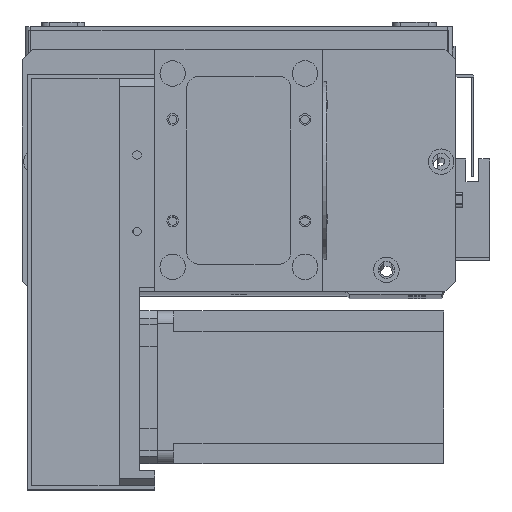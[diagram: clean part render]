
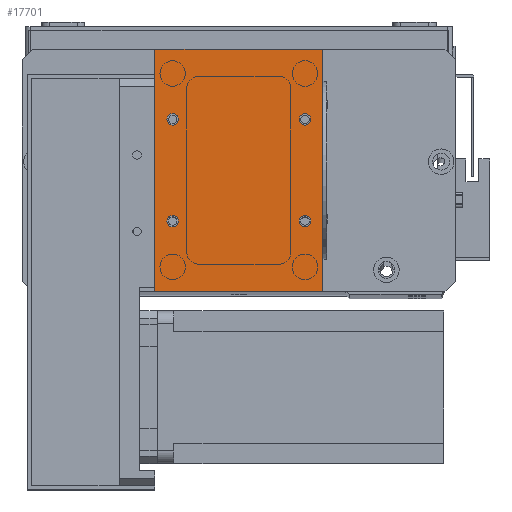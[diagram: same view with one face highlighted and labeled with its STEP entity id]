
A CAD part, top view. The second image highlights one B-rep face of the part: STEP entity #17701.
In plain terms, the highlighted planar face has unit normal (0, 0, 1).
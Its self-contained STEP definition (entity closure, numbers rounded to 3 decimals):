
#842 = DIRECTION ( 'NONE',  ( 0., 0., 1. ) ) ;
#870 = CARTESIAN_POINT ( 'NONE',  ( 7., 27.5, 2. ) ) ;
#997 = EDGE_CURVE ( 'NONE', #13605, #9515, #7344, .T. ) ;
#1415 = VERTEX_POINT ( 'NONE', #14846 ) ;
#1843 = AXIS2_PLACEMENT_3D ( 'NONE', #6313, #23491, #8772 ) ;
#1890 = EDGE_CURVE ( 'NONE', #1415, #28647, #13017, .T. ) ;
#2082 = VERTEX_POINT ( 'NONE', #2871 ) ;
#2129 = DIRECTION ( 'NONE',  ( 1., 0., 0. ) ) ;
#2849 = CARTESIAN_POINT ( 'NONE',  ( 7., 67.5, 2. ) ) ;
#2871 = CARTESIAN_POINT ( 'NONE',  ( 61.25, 67.5, 2. ) ) ;
#3053 = LINE ( 'NONE', #31410, #28395 ) ;
#3177 = DIRECTION ( 'NONE',  ( 0., 0., 1. ) ) ;
#3415 = CIRCLE ( 'NONE', #9214, 2.25 ) ;
#3504 = ORIENTED_EDGE ( 'NONE', *, *, #19364, .T. ) ;
#3548 = CARTESIAN_POINT ( 'NONE',  ( 0., 0., 2. ) ) ;
#4126 = EDGE_LOOP ( 'NONE', ( #5936, #3504, #5085, #23595 ) ) ;
#4518 = CARTESIAN_POINT ( 'NONE',  ( 7., 27.5, 2. ) ) ;
#4837 = AXIS2_PLACEMENT_3D ( 'NONE', #17861, #3177, #20346 ) ;
#5085 = ORIENTED_EDGE ( 'NONE', *, *, #19274, .T. ) ;
#5319 = DIRECTION ( 'NONE',  ( 1., 0., 0. ) ) ;
#5643 = CIRCLE ( 'NONE', #31789, 2.25 ) ;
#5715 = ORIENTED_EDGE ( 'NONE', *, *, #25932, .F. ) ;
#5803 = AXIS2_PLACEMENT_3D ( 'NONE', #3548, #6058, #23211 ) ;
#5936 = ORIENTED_EDGE ( 'NONE', *, *, #1890, .T. ) ;
#6058 = DIRECTION ( 'NONE',  ( 0., 0., -1. ) ) ;
#6313 = CARTESIAN_POINT ( 'NONE',  ( 59., 67.5, 2. ) ) ;
#6922 = AXIS2_PLACEMENT_3D ( 'NONE', #870, #842, #10602 ) ;
#6996 = DIRECTION ( 'NONE',  ( 1., 0., 0. ) ) ;
#7125 = AXIS2_PLACEMENT_3D ( 'NONE', #26456, #11723, #28902 ) ;
#7344 = CIRCLE ( 'NONE', #6922, 2.25 ) ;
#7454 = ORIENTED_EDGE ( 'NONE', *, *, #25657, .F. ) ;
#8406 = VERTEX_POINT ( 'NONE', #19678 ) ;
#8680 = EDGE_LOOP ( 'NONE', ( #7454, #16246 ) ) ;
#8729 = CIRCLE ( 'NONE', #1843, 2.25 ) ;
#8772 = DIRECTION ( 'NONE',  ( 1., 0., 0. ) ) ;
#9214 = AXIS2_PLACEMENT_3D ( 'NONE', #4518, #21700, #6996 ) ;
#9228 = VERTEX_POINT ( 'NONE', #30008 ) ;
#9248 = FACE_BOUND ( 'NONE', #16209, .T. ) ;
#9515 = VERTEX_POINT ( 'NONE', #18803 ) ;
#9638 = CIRCLE ( 'NONE', #4837, 2.25 ) ;
#9947 = CARTESIAN_POINT ( 'NONE',  ( 66., 0., 2. ) ) ;
#10091 = EDGE_CURVE ( 'NONE', #9515, #13605, #3415, .T. ) ;
#10602 = DIRECTION ( 'NONE',  ( 1., 0., 0. ) ) ;
#10831 = FACE_BOUND ( 'NONE', #20926, .T. ) ;
#10884 = CARTESIAN_POINT ( 'NONE',  ( 59., 67.5, 2. ) ) ;
#11254 = VERTEX_POINT ( 'NONE', #24857 ) ;
#11469 = EDGE_CURVE ( 'NONE', #2082, #11254, #22140, .T. ) ;
#11485 = VECTOR ( 'NONE', #17099, 1000. ) ;
#11723 = DIRECTION ( 'NONE',  ( 0., 0., 1. ) ) ;
#12659 = CARTESIAN_POINT ( 'NONE',  ( 59., 27.5, 2. ) ) ;
#12856 = VECTOR ( 'NONE', #31557, 1000. ) ;
#13017 = LINE ( 'NONE', #17312, #11485 ) ;
#13080 = PLANE ( 'NONE',  #5803 ) ;
#13322 = DIRECTION ( 'NONE',  ( 1., 0., 0. ) ) ;
#13605 = VERTEX_POINT ( 'NONE', #15602 ) ;
#14591 = EDGE_CURVE ( 'NONE', #15914, #1415, #25959, .T. ) ;
#14846 = CARTESIAN_POINT ( 'NONE',  ( 0., 95., 2. ) ) ;
#15125 = DIRECTION ( 'NONE',  ( 1., 0., 0. ) ) ;
#15602 = CARTESIAN_POINT ( 'NONE',  ( 4.75, 27.5, 2. ) ) ;
#15914 = VERTEX_POINT ( 'NONE', #27434 ) ;
#15945 = CARTESIAN_POINT ( 'NONE',  ( 66., 0., 2. ) ) ;
#16209 = EDGE_LOOP ( 'NONE', ( #26613, #27820 ) ) ;
#16246 = ORIENTED_EDGE ( 'NONE', *, *, #17122, .F. ) ;
#17099 = DIRECTION ( 'NONE',  ( 0., -1., 0. ) ) ;
#17122 = EDGE_CURVE ( 'NONE', #22183, #9228, #24692, .T. ) ;
#17312 = CARTESIAN_POINT ( 'NONE',  ( 0., 0., 2. ) ) ;
#17701 = ADVANCED_FACE ( 'NONE', ( #28103, #10831, #28852, #9248, #21569 ), #13080, .F. ) ;
#17861 = CARTESIAN_POINT ( 'NONE',  ( 59., 27.5, 2. ) ) ;
#18117 = VERTEX_POINT ( 'NONE', #9947 ) ;
#18401 = VECTOR ( 'NONE', #28210, 1000. ) ;
#18803 = CARTESIAN_POINT ( 'NONE',  ( 9.25, 27.5, 2. ) ) ;
#19274 = EDGE_CURVE ( 'NONE', #18117, #15914, #24951, .T. ) ;
#19364 = EDGE_CURVE ( 'NONE', #28647, #18117, #3053, .T. ) ;
#19678 = CARTESIAN_POINT ( 'NONE',  ( 56.75, 27.5, 2. ) ) ;
#19887 = ORIENTED_EDGE ( 'NONE', *, *, #29578, .F. ) ;
#19999 = DIRECTION ( 'NONE',  ( 0., 0., 1. ) ) ;
#20346 = DIRECTION ( 'NONE',  ( 1., 0., 0. ) ) ;
#20926 = EDGE_LOOP ( 'NONE', ( #24067, #19887 ) ) ;
#21569 = FACE_OUTER_BOUND ( 'NONE', #4126, .T. ) ;
#21700 = DIRECTION ( 'NONE',  ( 0., 0., 1. ) ) ;
#21779 = EDGE_CURVE ( 'NONE', #8406, #25309, #9638, .T. ) ;
#21916 = CARTESIAN_POINT ( 'NONE',  ( 0., 95., 2. ) ) ;
#22140 = CIRCLE ( 'NONE', #24290, 2.25 ) ;
#22183 = VERTEX_POINT ( 'NONE', #29855 ) ;
#22927 = ORIENTED_EDGE ( 'NONE', *, *, #21779, .F. ) ;
#23211 = DIRECTION ( 'NONE',  ( -1., 0., 0. ) ) ;
#23491 = DIRECTION ( 'NONE',  ( 0., 0., 1. ) ) ;
#23595 = ORIENTED_EDGE ( 'NONE', *, *, #14591, .T. ) ;
#24067 = ORIENTED_EDGE ( 'NONE', *, *, #11469, .F. ) ;
#24290 = AXIS2_PLACEMENT_3D ( 'NONE', #10884, #28052, #13322 ) ;
#24692 = CIRCLE ( 'NONE', #30655, 2.25 ) ;
#24857 = CARTESIAN_POINT ( 'NONE',  ( 56.75, 67.5, 2. ) ) ;
#24882 = CARTESIAN_POINT ( 'NONE',  ( 61.25, 27.5, 2. ) ) ;
#24951 = LINE ( 'NONE', #15945, #18401 ) ;
#25309 = VERTEX_POINT ( 'NONE', #24882 ) ;
#25657 = EDGE_CURVE ( 'NONE', #9228, #22183, #31357, .T. ) ;
#25932 = EDGE_CURVE ( 'NONE', #25309, #8406, #5643, .T. ) ;
#25959 = LINE ( 'NONE', #21916, #12856 ) ;
#26456 = CARTESIAN_POINT ( 'NONE',  ( 7., 67.5, 2. ) ) ;
#26613 = ORIENTED_EDGE ( 'NONE', *, *, #10091, .F. ) ;
#27434 = CARTESIAN_POINT ( 'NONE',  ( 66., 95., 2. ) ) ;
#27820 = ORIENTED_EDGE ( 'NONE', *, *, #997, .F. ) ;
#28052 = DIRECTION ( 'NONE',  ( 0., 0., 1. ) ) ;
#28103 = FACE_BOUND ( 'NONE', #8680, .T. ) ;
#28210 = DIRECTION ( 'NONE',  ( 0., 1., 0. ) ) ;
#28395 = VECTOR ( 'NONE', #2129, 1000. ) ;
#28621 = EDGE_LOOP ( 'NONE', ( #5715, #22927 ) ) ;
#28647 = VERTEX_POINT ( 'NONE', #29399 ) ;
#28852 = FACE_BOUND ( 'NONE', #28621, .T. ) ;
#28902 = DIRECTION ( 'NONE',  ( 1., 0., 0. ) ) ;
#29399 = CARTESIAN_POINT ( 'NONE',  ( 0., 0., 2. ) ) ;
#29578 = EDGE_CURVE ( 'NONE', #11254, #2082, #8729, .T. ) ;
#29855 = CARTESIAN_POINT ( 'NONE',  ( 4.75, 67.5, 2. ) ) ;
#29860 = DIRECTION ( 'NONE',  ( 0., 0., 1. ) ) ;
#30008 = CARTESIAN_POINT ( 'NONE',  ( 9.25, 67.5, 2. ) ) ;
#30655 = AXIS2_PLACEMENT_3D ( 'NONE', #2849, #19999, #5319 ) ;
#31357 = CIRCLE ( 'NONE', #7125, 2.25 ) ;
#31410 = CARTESIAN_POINT ( 'NONE',  ( 0., 0., 2. ) ) ;
#31557 = DIRECTION ( 'NONE',  ( -1., 0., 0. ) ) ;
#31789 = AXIS2_PLACEMENT_3D ( 'NONE', #12659, #29860, #15125 ) ;
